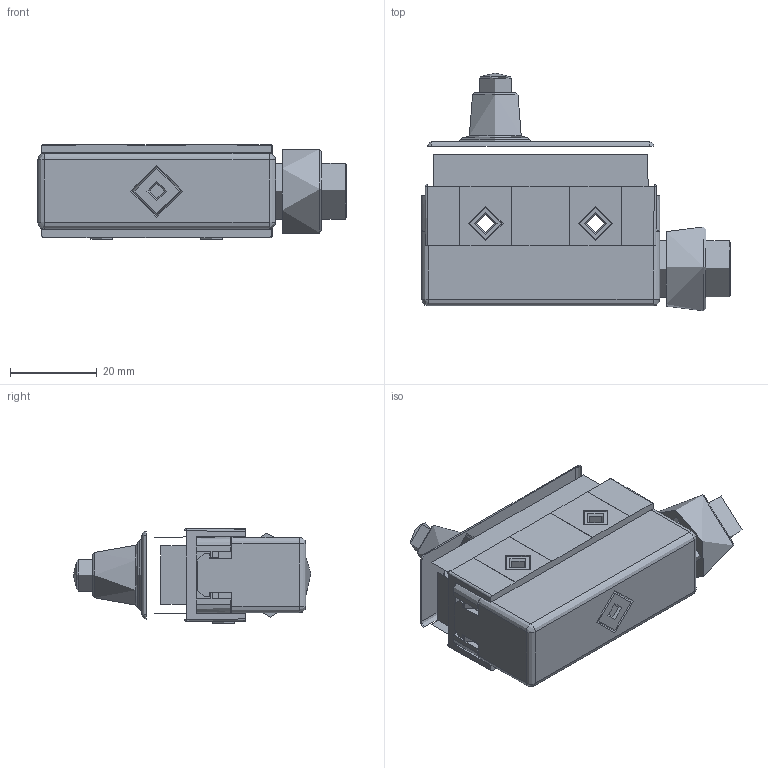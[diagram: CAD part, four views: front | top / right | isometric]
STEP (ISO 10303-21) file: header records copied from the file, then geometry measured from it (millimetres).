
FILE_DESCRIPTION((''),'2; 1');
FILE_NAME('','2026-03-27T16:33:31',(''),(''),'CST STEP Exporter V1.0','Unknown','');
FILE_SCHEMA(('CONFIG_CONTROL_DESIGN'));
Length unit declared in the file: metre
Assembly tree (8 placements, depth 2):
  (unnamed)
    (unnamed)
    (unnamed)
    (unnamed)
    (unnamed)
    (unnamed)
    (unnamed)
    (unnamed)
    (unnamed)
Bounding box: 71.33 x 54.94 x 21.9 mm (x, y, z)
Topology: 0 solids, 33 shells, 193 faces, 480 edges, 316 vertices
Faces by surface type: plane 105, cylinder 54, torus 14, sphere 13, cone 7
Full cylindrical faces by diameter (mm): 1 x12, 2 x4, 4.2 x2, 5 x2, 5.2 x2, 6 x1, 7.35 x1, 7.5 x2, 8 x4, 13 x2, 16 x1, 19.4 x1
Entity records: 7372 total; most frequent: CARTESIAN_POINT 1020, DIRECTION 928, ORIENTED_EDGE 817, EDGE_CURVE 467, AXIS2_PLACEMENT_3D 327, VERTEX_POINT 327, VECTOR 274, LINE 274
